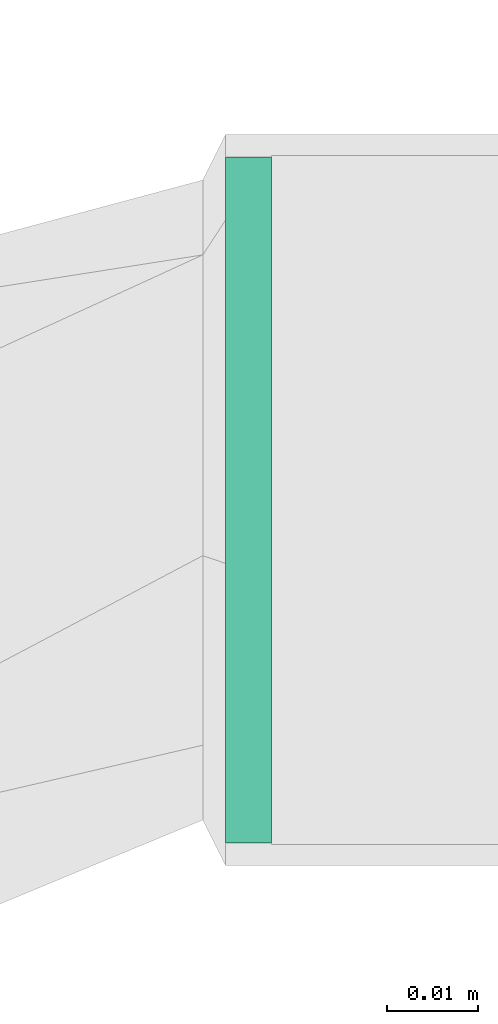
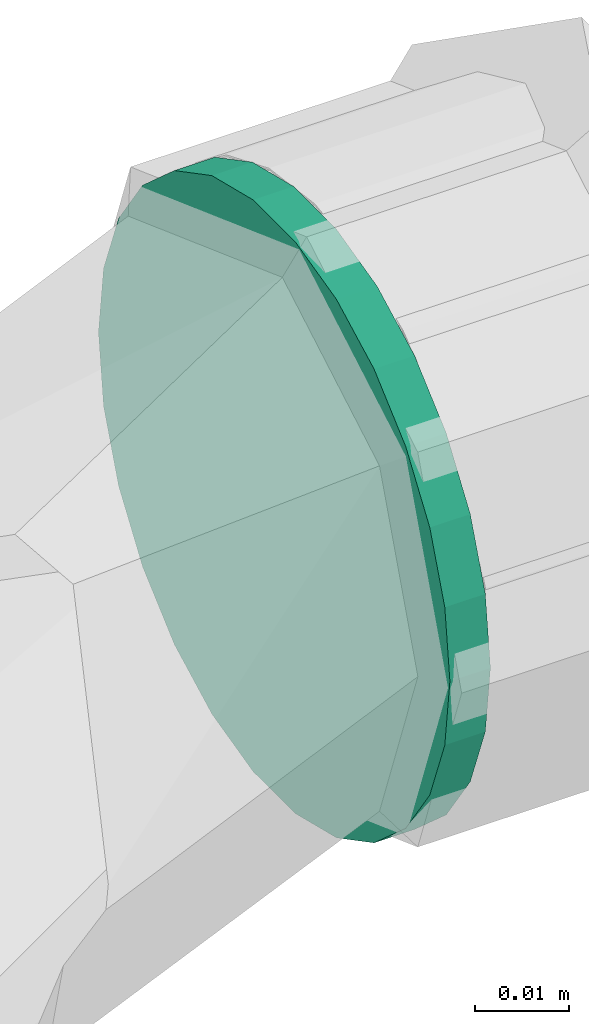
# One storey, part 67 of 166: 1 flow segment.
"""IFC2X3 building model written with IfcOpenShell, lengths in metres."""

from ifc_helpers import new_model, entity, si_unit, converted_unit, direction, frame, origin, origin_2d_with_axis, place, context, subcontext, project, spatial, circle, extrude, type_object, element, save


model = new_model("IFC2X3")

# Units and contexts
model_context = context("Model", 3, precision=1e-05, world=origin(), true_north=direction((6.123233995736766e-17, 1.0)))
body_context = subcontext(model_context, "Body", "Model", "MODEL_VIEW")
ifc_project = project(units=[si_unit("LENGTHUNIT", "METRE"), converted_unit("PLANEANGLEUNIT", "DEGREE", entity("IfcPlaneAngleMeasure", 0.017453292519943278), si_unit("PLANEANGLEUNIT", "RADIAN"), dimensions=[0, 0, 0, 0, 0, 0, 0]), si_unit("AREAUNIT", "SQUARE_METRE")], contexts=[model_context])

# Site, building, storey
site_placement = place(None, origin())
site = spatial("IfcSite", under=ifc_project, at=site_placement, Name="Default", CompositionType="ELEMENT")
building_placement = place(site_placement, origin())
building = spatial("IfcBuilding", under=site, at=building_placement, Name="CASA DE ACOLHIDA PARA IDOSOS", CompositionType="ELEMENT")
storey_placement = place(building_placement, frame((0.0, 0.0, -1.7499999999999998)))
storey = spatial("IfcBuildingStorey", under=building, at=storey_placement, Name="IMPLANTAÇÃO DRENAGEM", CompositionType="ELEMENT", Elevation=-1.7499999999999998)

# Flow segment
pipe_segment_type = type_object("IfcPipeSegmentType", Name="Tipos de tubos:AF_Tubo Marrom Soldável", PredefinedType="NOTDEFINED")
flow_segment_placement = place(storey_placement, origin())
element("IfcFlowSegment", 1, at=flow_segment_placement, inside=storey, type_object=pipe_segment_type, Name="Tipos de tubos:AF_Tubo Marrom Soldável", ObjectType="Tipos de tubos:AF_Tubo Marrom Soldável", context=body_context, shape_type="SweptSolid", body=[
    extrude(circle(Radius=0.037500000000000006, at=origin_2d_with_axis()), frame((-61.017645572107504, 7.048917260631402, 0.13343317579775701), z_axis=(1.0, 0.0, 0.0), x_axis=(0.0, -1.0, 0.0)), (0.0, 0.0, 1.0), 0.00500011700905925),
])

save(model, "model.ifc")
